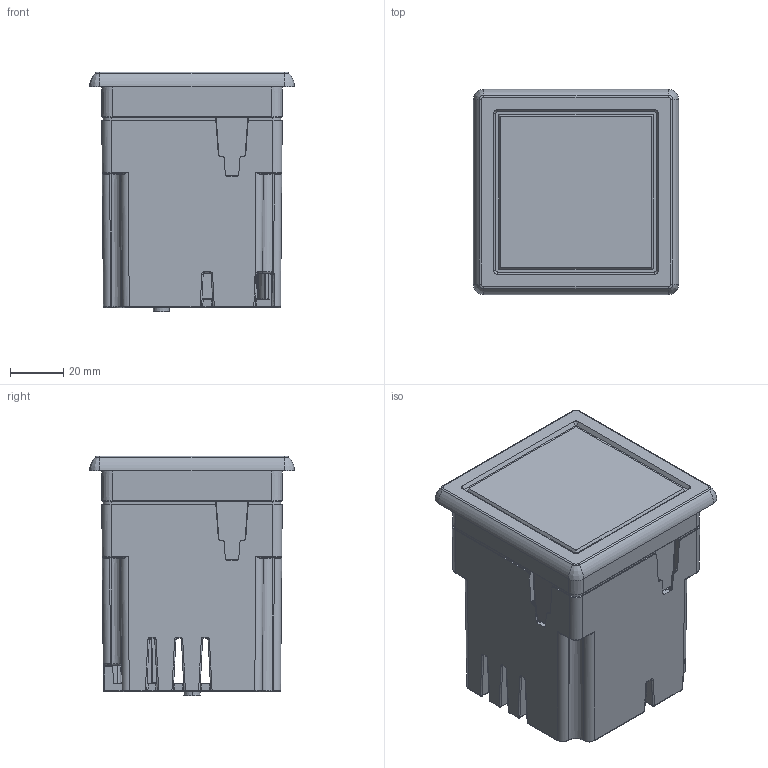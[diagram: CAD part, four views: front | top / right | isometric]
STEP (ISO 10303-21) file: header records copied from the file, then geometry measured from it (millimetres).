
FILE_DESCRIPTION((''),'2;1');
FILE_NAME('XL_72_ASM_ASM','2010-04-13T',('nmi'),(''),'PRO/ENGINEER BY PARAMETRIC TECHNOLOGY CORPORATION, 2007030','PRO/ENGINEER BY PARAMETRIC TECHNOLOGY CORPORATION, 2007030','');
FILE_SCHEMA(('CONFIG_CONTROL_DESIGN'));
Products named in the file (4): BASE_XL_72_RM; FRONT_XL_72_RM; WINDOW_XL_72; XL_72_ASM_ASM
Assembly tree (3 placements, depth 2):
  XL_72_ASM_ASM
    BASE_XL_72_RM
    FRONT_XL_72_RM
    WINDOW_XL_72
Bounding box: 77 x 77 x 89.75 mm (x, y, z)
Volume: 103115.8 mm3; surface area: 78965.2 mm2
Topology: 3 solids, 3 shells, 1559 faces, 3920 edges, 2355 vertices
Faces by surface type: cylinder 574, bspline 424, plane 355, cone 100, torus 76, sphere 30
Entity records: 66036 total; most frequent: CARTESIAN_POINT 32219, ORIENTED_EDGE 7832, DIRECTION 6008, EDGE_CURVE 3916, VERTEX_POINT 2355, AXIS2_PLACEMENT_3D 2202, VECTOR 1604, LINE 1604
